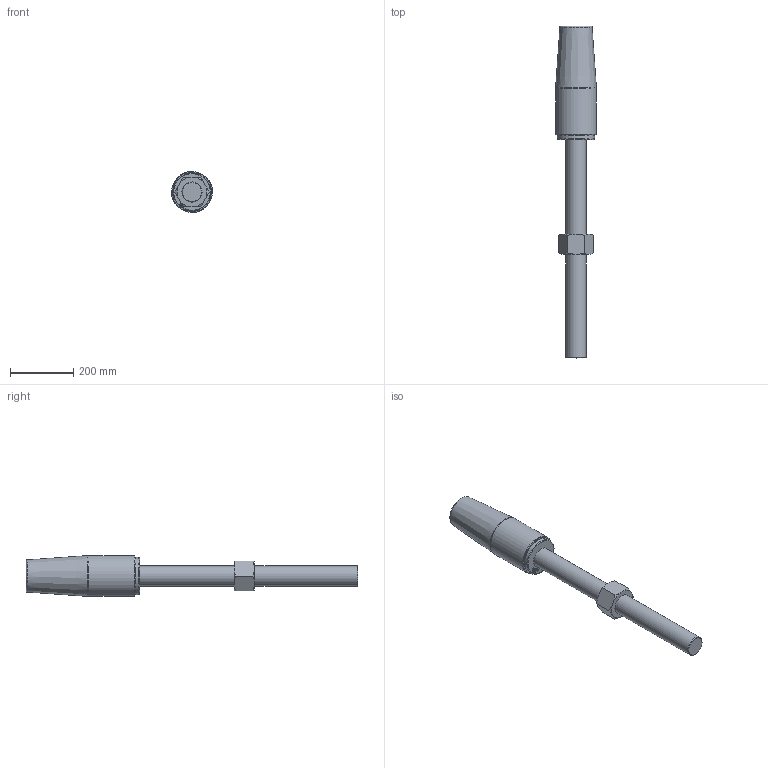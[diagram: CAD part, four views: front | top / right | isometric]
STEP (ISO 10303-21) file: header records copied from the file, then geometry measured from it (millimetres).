
FILE_DESCRIPTION(/* description */ (''),/* implementation_level */ '2;1');
FILE_NAME(/* name */ 'D:\Clienti\Redaelli (inventor)\CYB\STEP\Arrangement\CYB044 52 061 0.stp',/* time_stamp */ '2021-05-08T14:38:44+02:00',/* author */ ('fabri'),/* organization */ (''),/* preprocessor_version */ 'ST-DEVELOPER v16.13',/* originating_system */ 'Autodesk Inventor 2018',/* authorisation */ '');
FILE_SCHEMA (('AUTOMOTIVE_DESIGN { 1 0 10303 214 3 1 1 }'));
Length unit declared in the file: millimetre
Products named in the file (5): CYB012-52-061-0; RNT044 41 051 0_ROD; UNI 5587 - M64 x 4; CCY021-51-061-0_BUSH; CCY021-51-061-0
Assembly tree (4 placements, depth 2):
  CYB012-52-061-0
    RNT044 41 051 0_ROD
    UNI 5587 - M64 x 4
    CCY021-51-061-0_BUSH
    CCY021-51-061-0
Bounding box: 129.57 x 1053 x 129.57 mm (x, y, z)
Volume: 7510417.7 mm3; surface area: 433609.9 mm2
Topology: 4 solids, 4 shells, 686 faces, 1811 edges, 1200 vertices
Faces by surface type: plane 371, bspline 284, cone 19, cylinder 8, torus 4
Full cylindrical faces by diameter (mm): 59.67 x2, 64 x1, 65 x1, 90 x1, 100 x1, 120 x1, 130 x1
Entity records: 22545 total; most frequent: CARTESIAN_POINT 7440, ORIENTED_EDGE 3582, DIRECTION 2063, EDGE_CURVE 1791, VERTEX_POINT 1199, LINE 1159, VECTOR 1159, EDGE_LOOP 776
